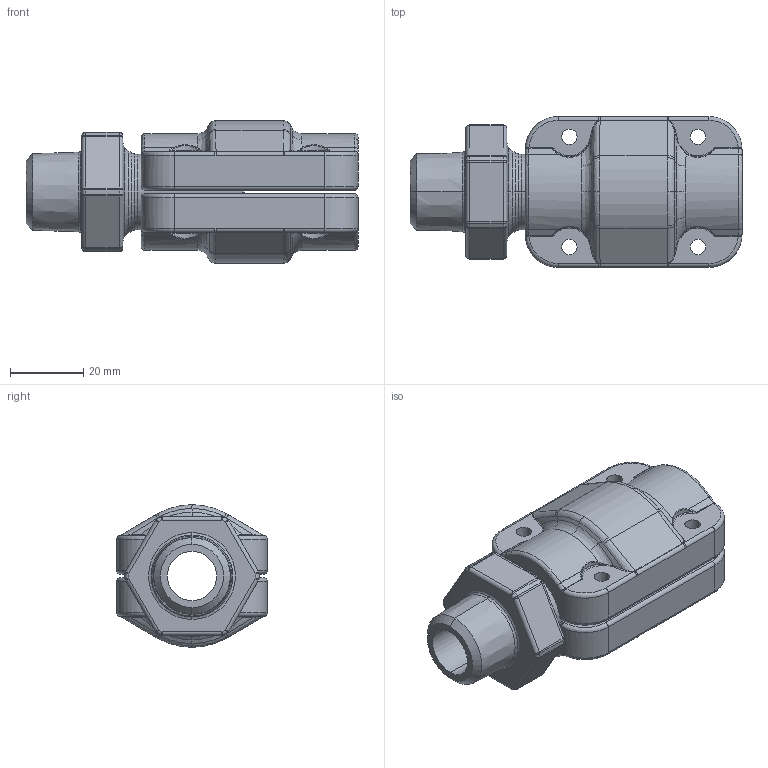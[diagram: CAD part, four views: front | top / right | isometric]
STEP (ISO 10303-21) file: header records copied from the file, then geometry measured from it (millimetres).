
FILE_DESCRIPTION((''),'2;1');
FILE_NAME('AU15101799_ASM_3_ASM','2017-05-15T',('Administrator'),(''),'PRO/ENGINEER BY PARAMETRIC TECHNOLOGY CORPORATION, 2009360','PRO/ENGINEER BY PARAMETRIC TECHNOLOGY CORPORATION, 2009360','');
FILE_SCHEMA(('AUTOMOTIVE_DESIGN_CC2 { 1 2 10303 214 -1 1 5 2 }'));
Length unit declared in the file: millimetre
Products named in the file (5): AU15101700_1; 201510020000_38_1; 201510020001_10_1; 2015100200_ASM_1_ASM; AU15101799_ASM_3_ASM
Assembly tree (4 placements, depth 3):
  AU15101799_ASM_3_ASM
    AU15101700_1
    2015100200_ASM_1_ASM
      201510020000_38_1
      201510020001_10_1
Bounding box: 90.37 x 41 x 38.8 mm (x, y, z)
Volume: 59581.2 mm3; surface area: 26006.8 mm2
Topology: 3 solids, 9 shells, 466 faces, 1103 edges, 626 vertices
Faces by surface type: cylinder 144, bspline 136, torus 88, plane 48, sphere 32, cone 18
Entity records: 22568 total; most frequent: CARTESIAN_POINT 8729, ORIENTED_EDGE 2144, DIRECTION 1820, PRESENTATION_STYLE_ASSIGNMENT 1209, STYLED_ITEM 1075, CURVE_STYLE 1072, EDGE_CURVE 1072, AXIS2_PLACEMENT_3D 792
